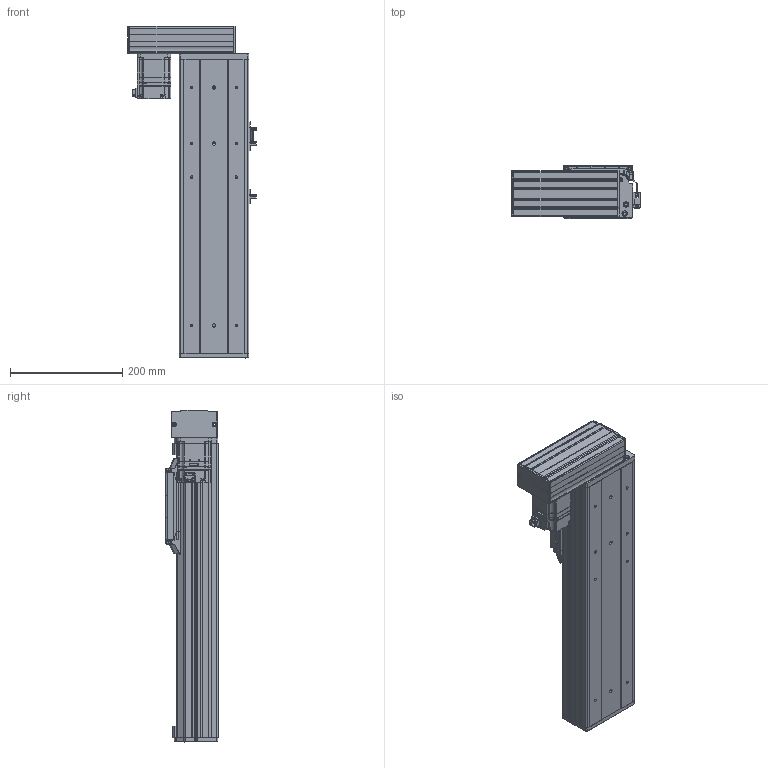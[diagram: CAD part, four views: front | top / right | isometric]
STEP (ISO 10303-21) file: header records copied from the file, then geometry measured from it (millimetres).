
FILE_DESCRIPTION(('Creo Elements/Direct Modeling STEP Export'),'2;1');
FILE_NAME('APCS120LON-ST300.stp','2022-02-18T11:05:56',(''),(''),'Creo Elements/Direct Modeling STEP processor for AP203 (Solid Model)','Creo Elements/Direct Modeling 19.0G 27-Nov-2017 (C) Parametric Technology GmbH','');
FILE_SCHEMA(('CONFIG_CONTROL_DESIGN'));
Length unit declared in the file: millimetre
Products named in the file (17): APCS120_º´·Ä_MOTOR_BRACKET-200_400W; sgmjv_02a_a21; APCS120_º´·Ä_MOTOR_END_COVER; APCS120_SENSOR_DOG; APCS120_º´·Ä_MOTOR_UPPER_COVER-200W_400W; EE_SX672; APOS120_END_PLATE; APCS120_slider_end_cover; p1; p2; APCS120_Carrier; APCS120_end_cover; APCS120_BASE_FRAME-360L(MOTOR_OUT); APCS120LON-1520-ST300-20NN00-N-I3R; APCS120LON-ST300
Assembly tree (20 placements, depth 4):
  APCS120LON-ST300
    APCS120LON-1520-ST300-20NN00-N-I3R
      APCS120_slider_end_cover  x2
      APCS120_BASE_FRAME-360L(MOTOR_OUT)
        p2
        p1
      APCS120_end_cover
      APCS120_Carrier
        p2
        p1
      EE_SX672  x3
      APOS120_END_PLATE
      APCS120_º´·Ä_MOTOR_UPPER_COVER-200W_400W
      APCS120_SENSOR_DOG
      APCS120_º´·Ä_MOTOR_END_COVER  x2
      sgmjv_02a_a21
      APCS120_º´·Ä_MOTOR_BRACKET-200_400W
Bounding box: 229.7 x 94 x 591.5 mm (x, y, z)
Volume: 2854886 mm3; surface area: 827510.1 mm2
Topology: 17 solids, 17 shells, 2414 faces, 6653 edges, 4311 vertices
Faces by surface type: plane 1398, cylinder 801, cone 94, bspline 92, sphere 28, torus 1
Entity records: 67995 total; most frequent: CARTESIAN_POINT 16888, ORIENTED_EDGE 10702, DIRECTION 9792, EDGE_CURVE 5351, VECTOR 3666, LINE 3666, VERTEX_POINT 3507, AXIS2_PLACEMENT_3D 3063
